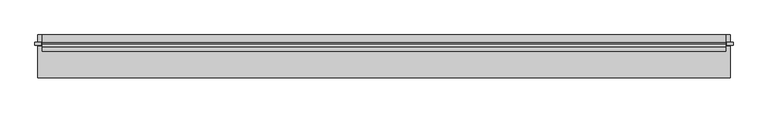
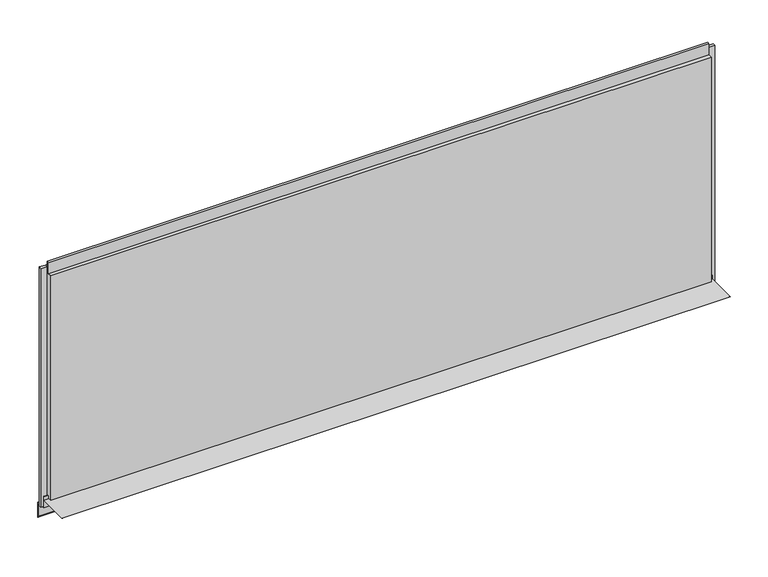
"""IFC4 building model written with IfcOpenShell, lengths in millimetres: plate geometry, Trimo_Qbiss Screen_Normal Panel-HORIZONTAL : HR - B."""

from ifc_helpers import new_model, si_unit, frame, origin, place, context, project, spatial, polyline, outline, extrude, source, transform, mapped, element, save


def plate_3f5ef56c(model_context):
    return source(origin(), model_context, "Body", "SweptSolid", [
        extrude(outline(polyline([(66.7, 14.0835797), (67.5, 14.0835797), (67.5, -23.0), (100.0, -25.8433816), (100.0, -76.0), (87.1509533, -63.1509533), (87.7166388, -62.5852679), (99.2, -74.0686292), (99.2, -26.5764465), (66.7, -23.7330649), (66.7, 1.0), (-32.5, 1.0), (-32.5, 1.8), (66.7, 1.8), (66.7, 14.0835797)])), frame((-1067.5, 0.0, 0.0), z_axis=(1.0, 0.0, 0.0), x_axis=(0.0, 1.0, 0.0)), (0.0, 0.0, 1.0), 2135.0),
        extrude(outline(polyline([(-1058.0, 76.5978162), (-1058.0, 67.8978162), (-1077.0, 67.8978162), (-1077.0, 76.5978162), (-1058.0, 76.5978162)])), frame((0.0, 0.0, -20.0), z_axis=(0.0, 0.0, 1.0), x_axis=(1.0, 0.0, 0.0)), (0.0, 0.0, 1.0), 806.95),
        extrude(outline(polyline([(1058.0, 67.8978162), (1058.0, 76.5978162), (1077.0, 76.5978162), (1077.0, 67.8978162), (1058.0, 67.8978162)])), frame((0.0, 0.0, -20.0), z_axis=(0.0, 0.0, 1.0), x_axis=(1.0, 0.0, 0.0)), (0.0, 0.0, 1.0), 806.95),
        extrude(outline(polyline([(1055.0, 76.0), (1055.0, 71.0), (-1055.0, 71.0), (-1055.0, 76.0), (1055.0, 76.0)])), frame((0.0, 0.0, 765.95), z_axis=(0.0, 0.0, 1.0), x_axis=(1.0, 0.0, 0.0)), (0.0, 0.0, 1.0), 21.0),
        extrude(outline(polyline([(71.0, 764.95), (100.0, 764.95), (100.0, 0.0), (72.0, 0.0), (72.0, 15.5), (62.0, 15.5), (62.0, 7.0), (50.0, 7.0), (50.0, 764.95), (63.0, 764.95), (63.0, 802.45), (71.0, 802.45), (71.0, 764.95)])), frame((-1055.0, 0.0, 0.0), z_axis=(1.0, 0.0, 0.0), x_axis=(0.0, 1.0, 0.0)), (0.0, 0.0, 1.0), 2110.0),
    ])


if __name__ == "__main__":
    model = new_model("IFC4")
    model_context = context("Model", 3, world=origin())
    ifc_project = project(units=[si_unit("LENGTHUNIT", "METRE", prefix="MILLI")], contexts=[model_context])
    site = spatial("IfcSite", under=ifc_project)
    building = spatial("IfcBuilding", under=site)
    placement = place(None, origin())
    plate_shape = plate_3f5ef56c(model_context)
    element("IfcPlate", 1, ObjectType="Trimo_Qbiss Screen_Normal Panel-HORIZONTAL : HR - B", at=placement, inside=building, context=model_context, shape_type="MappedRepresentation", body=[
        mapped(plate_shape, transform((0.0, 0.0, 0.0), x_axis=(1.0, 0.0, 0.0), y_axis=(0.0, 1.0, 0.0), z_axis=(0.0, 0.0, 1.0))),
    ])
    save(model, "model.ifc")
